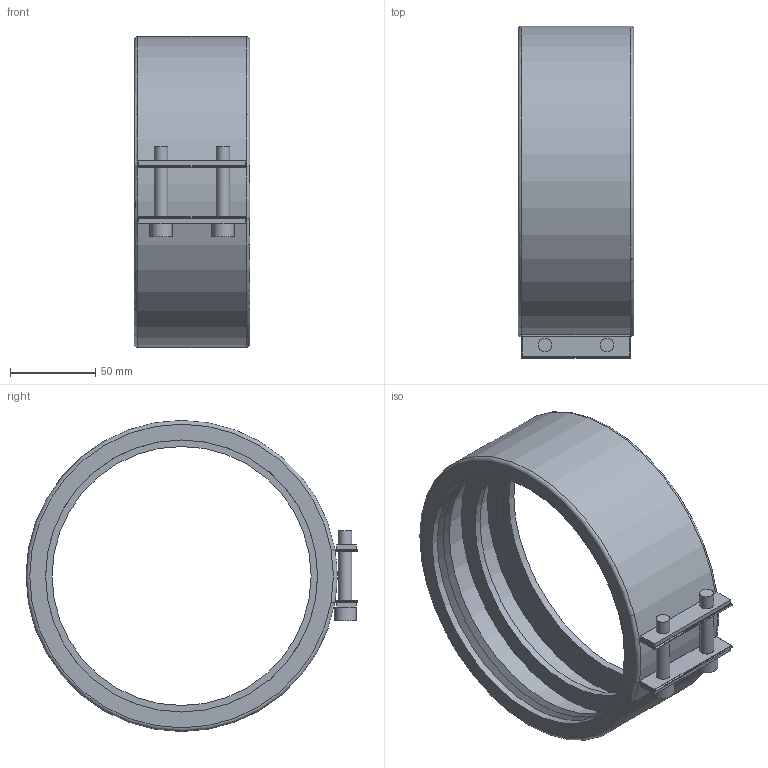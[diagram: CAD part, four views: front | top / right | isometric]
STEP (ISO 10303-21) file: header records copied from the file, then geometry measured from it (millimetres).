
FILE_DESCRIPTION( ( 'STEP AP214' ), '1' );
FILE_NAME( 'C:/Users/ilukic/Documents/ex/gebaudeentwasserung/pe/Geberit adapter clamping connector/359450.stp', '2020-03-26T18:41:22', ( '' ), ( '' ), ' ', 'PARTsolutions', ' ' );
FILE_SCHEMA( ( 'AUTOMOTIVE_DESIGN { 1 0 10303 214 1 1 1 1 }' ) );
Length unit declared in the file: millimetre
Products named in the file (1): _359450
Bounding box: 68 x 195.25 x 183 mm (x, y, z)
Volume: 242056.4 mm3; surface area: 150112.6 mm2
Topology: 1 solids, 1 shells, 121 faces, 309 edges, 202 vertices
Faces by surface type: plane 91, cylinder 22, cone 6, torus 2
Full cylindrical faces by diameter (mm): 8 x8, 13 x2, 152.381 x1, 160 x2, 175.624 x2
Entity records: 4402 total; most frequent: CARTESIAN_POINT 704, DIRECTION 544, ORIENTED_EDGE 536, EDGE_CURVE 268, AXIS2_PLACEMENT_3D 192, VERTEX_POINT 184, EDGE_LOOP 168, LINE 160
